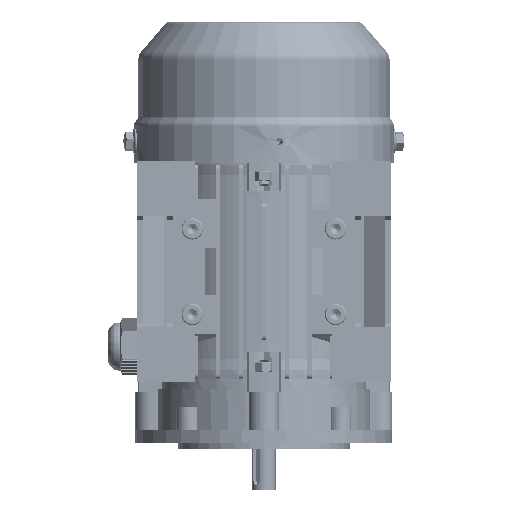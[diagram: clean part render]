
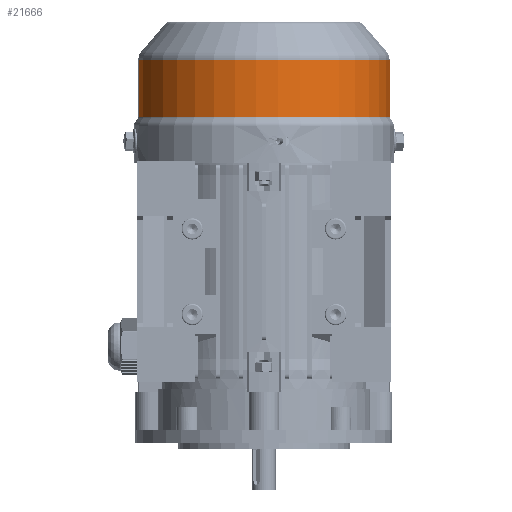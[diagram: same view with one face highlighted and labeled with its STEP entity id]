
A CAD part, front view. The second image highlights one B-rep face of the part: STEP entity #21666.
In plain terms, the highlighted cylindrical face has radius 58.8 mm (diameter 117.6 mm), a partial arc.
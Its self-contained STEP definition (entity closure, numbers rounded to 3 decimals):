
#2948 = CARTESIAN_POINT ( 'NONE',  ( -58.8, 33.496, 0. ) ) ;
#4248 = VERTEX_POINT ( 'NONE', #56635 ) ;
#5492 = DIRECTION ( 'NONE',  ( 1., 0., 0. ) ) ;
#9940 = AXIS2_PLACEMENT_3D ( 'NONE', #31650, #109082, #42776 ) ;
#12660 = ORIENTED_EDGE ( 'NONE', *, *, #142781, .F. ) ;
#13598 = CARTESIAN_POINT ( 'NONE',  ( -58.8, 17.63, 0. ) ) ;
#13845 = CARTESIAN_POINT ( 'NONE',  ( 58.8, 17.63, 0. ) ) ;
#21348 = LINE ( 'NONE', #13598, #76801 ) ;
#21666 = ADVANCED_FACE ( 'NONE', ( #48464 ), #103931, .T. ) ;
#24694 = DIRECTION ( 'NONE',  ( 0., -1., 0. ) ) ;
#24940 = DIRECTION ( 'NONE',  ( 1., 0., 0. ) ) ;
#27582 = CARTESIAN_POINT ( 'NONE',  ( 58.8, 33.496, 0. ) ) ;
#27879 = CARTESIAN_POINT ( 'NONE',  ( 58.8, 60.025, 0. ) ) ;
#31650 = CARTESIAN_POINT ( 'NONE',  ( 0., 60.025, 0. ) ) ;
#36116 = CARTESIAN_POINT ( 'NONE',  ( 0., 17.63, 0. ) ) ;
#42776 = DIRECTION ( 'NONE',  ( 1., 0., 0. ) ) ;
#46621 = VERTEX_POINT ( 'NONE', #2948 ) ;
#46751 = DIRECTION ( 'NONE',  ( 0., -1., 0. ) ) ;
#48464 = FACE_OUTER_BOUND ( 'NONE', #139666, .T. ) ;
#50332 = ORIENTED_EDGE ( 'NONE', *, *, #80450, .T. ) ;
#50947 = AXIS2_PLACEMENT_3D ( 'NONE', #36116, #46751, #24940 ) ;
#51073 = ORIENTED_EDGE ( 'NONE', *, *, #142942, .T. ) ;
#56635 = CARTESIAN_POINT ( 'NONE',  ( -58.8, 60.025, 0. ) ) ;
#59645 = CIRCLE ( 'NONE', #64614, 58.8 ) ;
#61301 = CIRCLE ( 'NONE', #9940, 58.8 ) ;
#64614 = AXIS2_PLACEMENT_3D ( 'NONE', #138099, #71804, #5492 ) ;
#66372 = LINE ( 'NONE', #13845, #114784 ) ;
#71804 = DIRECTION ( 'NONE',  ( 0., -1., 0. ) ) ;
#75340 = ORIENTED_EDGE ( 'NONE', *, *, #128780, .F. ) ;
#76801 = VECTOR ( 'NONE', #24694, 1000. ) ;
#80450 = EDGE_CURVE ( 'NONE', #84081, #117308, #66372, .T. ) ;
#84081 = VERTEX_POINT ( 'NONE', #27879 ) ;
#103931 = CYLINDRICAL_SURFACE ( 'NONE', #50947, 58.8 ) ;
#109082 = DIRECTION ( 'NONE',  ( 0., -1., 0. ) ) ;
#113529 = DIRECTION ( 'NONE',  ( 0., -1., 0. ) ) ;
#114784 = VECTOR ( 'NONE', #113529, 1000. ) ;
#117308 = VERTEX_POINT ( 'NONE', #27582 ) ;
#128780 = EDGE_CURVE ( 'NONE', #4248, #46621, #21348, .T. ) ;
#138099 = CARTESIAN_POINT ( 'NONE',  ( 0., 33.496, 0. ) ) ;
#139666 = EDGE_LOOP ( 'NONE', ( #75340, #51073, #50332, #12660 ) ) ;
#142781 = EDGE_CURVE ( 'NONE', #46621, #117308, #59645, .T. ) ;
#142942 = EDGE_CURVE ( 'NONE', #4248, #84081, #61301, .T. ) ;
